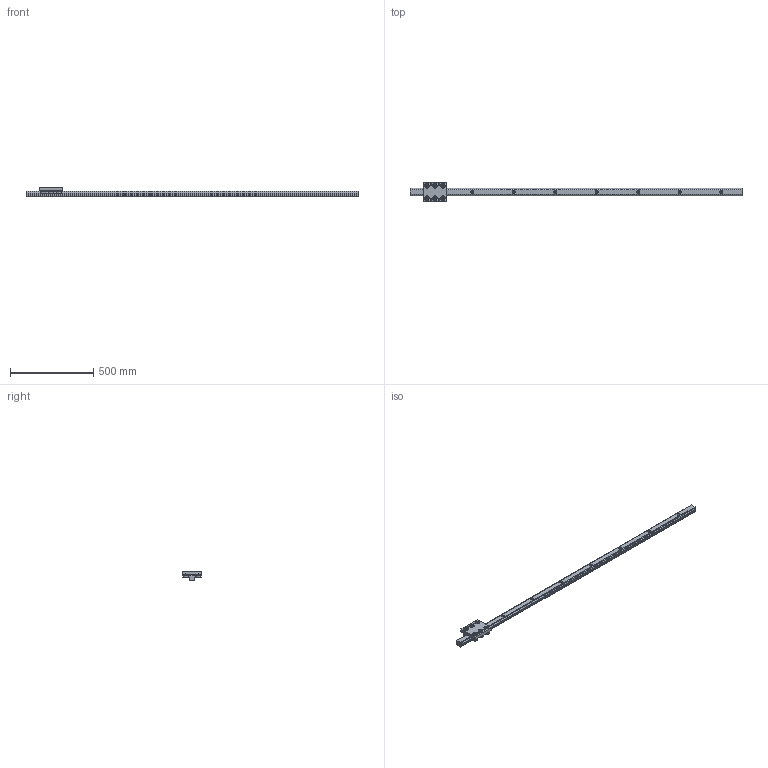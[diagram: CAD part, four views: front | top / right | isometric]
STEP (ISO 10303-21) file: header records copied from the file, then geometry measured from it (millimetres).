
FILE_DESCRIPTION((''),'2;1');
FILE_NAME('C:\Documents and Settings\土屋\My Documents\土屋移動用フォルダ\製品 (図面)\改正SPDRダウンロード用図面\step形式\SPDR43RL.stp','2017-07-18T16:51:23',('y'),(''),'Autodesk Inventor 11','Autodesk Inventor 11','');
FILE_SCHEMA(('AUTOMOTIVE_DESIGN { 1 0 10303 214 1 1 1 1 }'));
Length unit declared in the file: millimetre
Products named in the file (3): SPDR43RL; SPDR43RLレール; SPDR43RLキャリッジ
Assembly tree (2 placements, depth 2):
  SPDR43RL
    SPDR43RLレール
    SPDR43RLキャリッジ
Bounding box: 2000 x 120 x 54.3 mm (x, y, z)
Volume: 2583618 mm3; surface area: 395241.5 mm2
Topology: 2 solids, 2 shells, 260 faces, 554 edges, 342 vertices
Faces by surface type: plane 96, cone 78, bspline 46, cylinder 40
Full cylindrical faces by diameter (mm): 12 x6, 18 x6, 21 x6, 35 x12
Entity records: 7314 total; most frequent: CARTESIAN_POINT 2329, DIRECTION 982, ORIENTED_EDGE 956, EDGE_CURVE 478, AXIS2_PLACEMENT_3D 429, EDGE_LOOP 396, VERTEX_POINT 334, FACE_OUTER_BOUND 260
